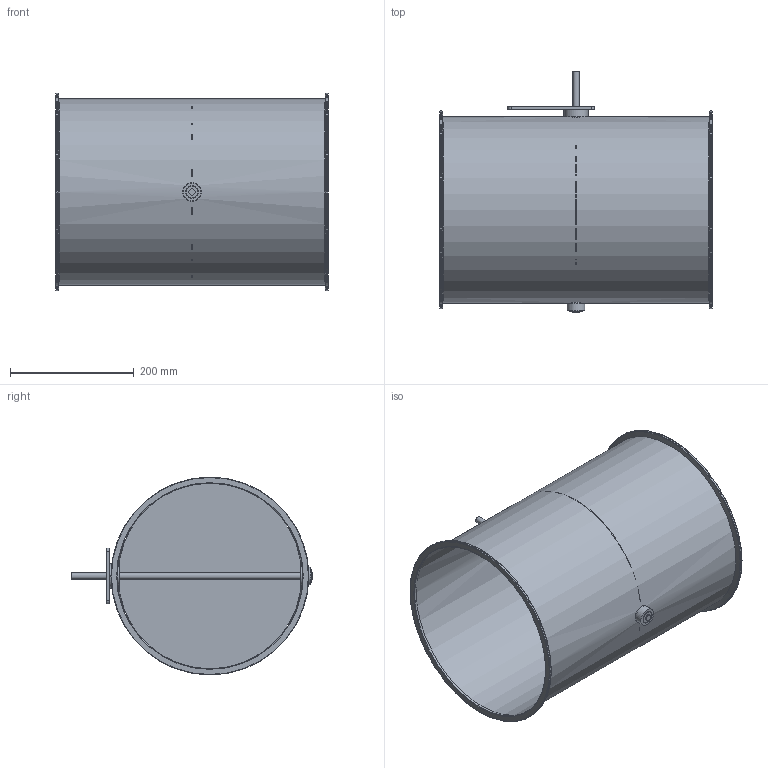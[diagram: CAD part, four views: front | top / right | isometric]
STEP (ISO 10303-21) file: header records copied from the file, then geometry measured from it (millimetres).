
FILE_DESCRIPTION(/* description */ (''),/* implementation_level */ '2;1');
FILE_NAME(/* name */ 'EA105-80B__300_L440_Belimo_Typ_NM.stp',/* time_stamp */ '2017-12-06T15:09:16+01:00',/* author */ (''),/* organization */ (''),/* preprocessor_version */ 'ST-DEVELOPER v11',/* originating_system */ 'SIEMENS UGS NX 6.0',/* authorisation */ '');
FILE_SCHEMA (('CONFIG_CONTROL_DESIGN'));
Length unit declared in the file: millimetre
Products named in the file (1): gars18E2j2bt
Bounding box: 440 x 390 x 320 mm (x, y, z)
Volume: 602256.8 mm3; surface area: 1057299.4 mm2
Topology: 8 solids, 8 shells, 60 faces, 126 edges, 84 vertices
Faces by surface type: cylinder 28, plane 24, torus 6, cone 2
Full cylindrical faces by diameter (mm): 4.1 x4, 10 x3, 19 x3, 19.85 x2, 20 x2, 29 x1, 30 x2, 39 x1, 300 x1, 301.6 x1, 320 x2
Entity records: 1568 total; most frequent: CARTESIAN_POINT 289, DIRECTION 262, ORIENTED_EDGE 172, AXIS2_PLACEMENT_3D 119, EDGE_LOOP 116, FACE_BOUND 102, EDGE_CURVE 86, VERTEX_POINT 74
